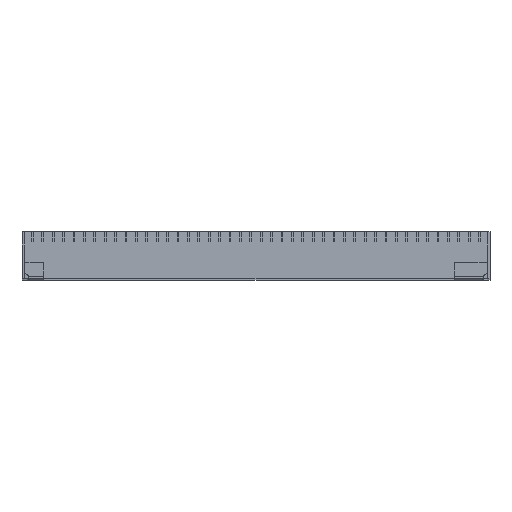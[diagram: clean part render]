
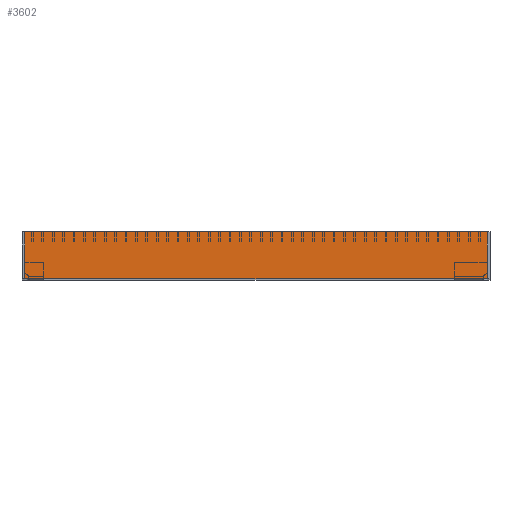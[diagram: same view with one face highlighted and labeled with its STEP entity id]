
A CAD part, top view. The second image highlights one B-rep face of the part: STEP entity #3602.
In plain terms, the highlighted planar face has unit normal (0, 0, 1).
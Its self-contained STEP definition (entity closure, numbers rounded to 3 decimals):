
#25 = CARTESIAN_POINT ( 'NONE',  ( -63.234, -4.407, 3. ) ) ;
#118 = ORIENTED_EDGE ( 'NONE', *, *, #1958, .T. ) ;
#531 = LINE ( 'NONE', #25, #9142 ) ;
#828 = CARTESIAN_POINT ( 'NONE',  ( 430.766, 45.593, 3. ) ) ;
#900 = VECTOR ( 'NONE', #10758, 1000. ) ;
#960 = VERTEX_POINT ( 'NONE', #5575 ) ;
#1083 = ORIENTED_EDGE ( 'NONE', *, *, #10696, .T. ) ;
#1101 = VERTEX_POINT ( 'NONE', #6584 ) ;
#1710 = EDGE_CURVE ( 'NONE', #1927, #1101, #2467, .T. ) ;
#1927 = VERTEX_POINT ( 'NONE', #828 ) ;
#1958 = EDGE_CURVE ( 'NONE', #2883, #960, #531, .T. ) ;
#2467 = LINE ( 'NONE', #5515, #6379 ) ;
#2883 = VERTEX_POINT ( 'NONE', #4273 ) ;
#3029 = DIRECTION ( 'NONE',  ( -1., 0., 0. ) ) ;
#3094 = LINE ( 'NONE', #3227, #900 ) ;
#3227 = CARTESIAN_POINT ( 'NONE',  ( 430.766, 45.593, 3. ) ) ;
#3602 = ADVANCED_FACE ( 'NONE', ( #4929 ), #6021, .T. ) ;
#4273 = CARTESIAN_POINT ( 'NONE',  ( -63.234, -4.407, 3. ) ) ;
#4285 = EDGE_LOOP ( 'NONE', ( #1083, #118, #6582, #7229 ) ) ;
#4929 = FACE_OUTER_BOUND ( 'NONE', #4285, .T. ) ;
#5449 = VECTOR ( 'NONE', #6807, 1000. ) ;
#5515 = CARTESIAN_POINT ( 'NONE',  ( -63.234, 45.593, 3. ) ) ;
#5575 = CARTESIAN_POINT ( 'NONE',  ( 430.766, -4.407, 3. ) ) ;
#5987 = CARTESIAN_POINT ( 'NONE',  ( -63.234, 45.593, 3. ) ) ;
#6021 = PLANE ( 'NONE',  #7882 ) ;
#6379 = VECTOR ( 'NONE', #3029, 1000. ) ;
#6582 = ORIENTED_EDGE ( 'NONE', *, *, #10439, .T. ) ;
#6584 = CARTESIAN_POINT ( 'NONE',  ( -63.234, 45.593, 3. ) ) ;
#6807 = DIRECTION ( 'NONE',  ( 0., -1., 0. ) ) ;
#7229 = ORIENTED_EDGE ( 'NONE', *, *, #1710, .T. ) ;
#7646 = CARTESIAN_POINT ( 'NONE',  ( -63.234, -4.407, 3. ) ) ;
#7679 = DIRECTION ( 'NONE',  ( 1., 0., 0. ) ) ;
#7882 = AXIS2_PLACEMENT_3D ( 'NONE', #7646, #8493, #7679 ) ;
#8336 = DIRECTION ( 'NONE',  ( 1., 0., 0. ) ) ;
#8493 = DIRECTION ( 'NONE',  ( 0., 0., 1. ) ) ;
#9142 = VECTOR ( 'NONE', #8336, 1000. ) ;
#9898 = LINE ( 'NONE', #5987, #5449 ) ;
#10439 = EDGE_CURVE ( 'NONE', #960, #1927, #3094, .T. ) ;
#10696 = EDGE_CURVE ( 'NONE', #1101, #2883, #9898, .T. ) ;
#10758 = DIRECTION ( 'NONE',  ( 0., 1., 0. ) ) ;
